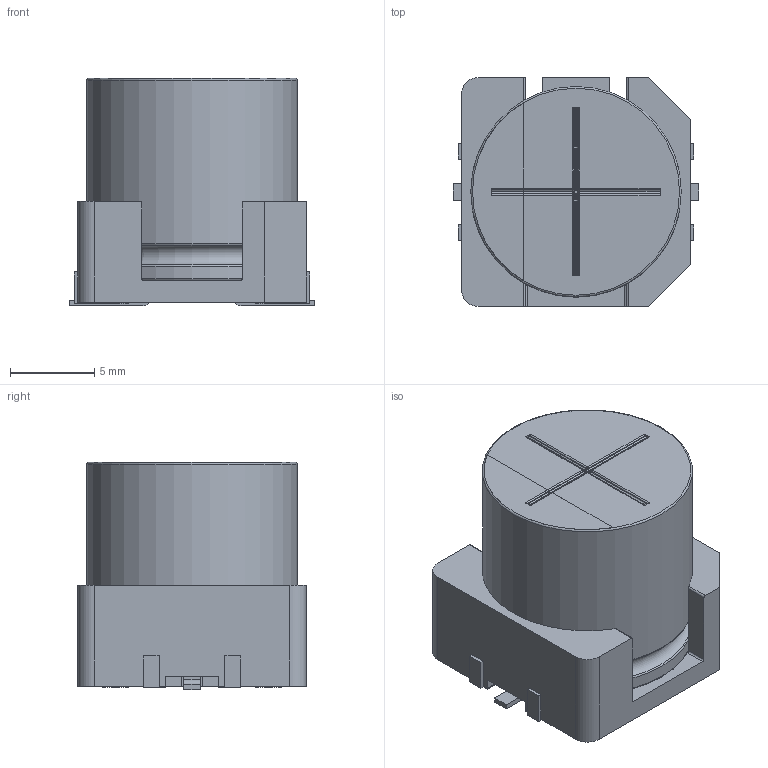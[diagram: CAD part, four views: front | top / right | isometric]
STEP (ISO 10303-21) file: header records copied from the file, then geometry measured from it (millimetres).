
FILE_DESCRIPTION(/* description */ (''),/* implementation_level */ '2;1');
FILE_NAME(/* name */ 'φ12.5x13.5L_耐振品_1.stp',/* time_stamp */ '2019-05-21T10:43:08+09:00',/* author */ (''),/* organization */ (''),/* preprocessor_version */ 'ST-DEVELOPER v16.7',/* originating_system */ 'SIEMENS PLM Software NX 1851',/* authorisation */ '');
FILE_SCHEMA (('AUTOMOTIVE_DESIGN { 1 0 10303 214 3 1 1 1 }'));
Length unit declared in the file: millimetre
Products named in the file (1): 12.5x13.5
Bounding box: 14.6 x 13.6 x 13.5 mm (x, y, z)
Volume: 1878 mm3; surface area: 1624.2 mm2
Topology: 9 solids, 9 shells, 184 faces, 459 edges, 294 vertices
Faces by surface type: plane 120, cylinder 51, torus 5, sphere 4, bspline 4
Full cylindrical faces by diameter (mm): 1.5 x4, 12.5 x2
Entity records: 5515 total; most frequent: CARTESIAN_POINT 1077, DIRECTION 898, ORIENTED_EDGE 884, EDGE_CURVE 442, LINE 332, VECTOR 332, VERTEX_POINT 292, AXIS2_PLACEMENT_3D 283
